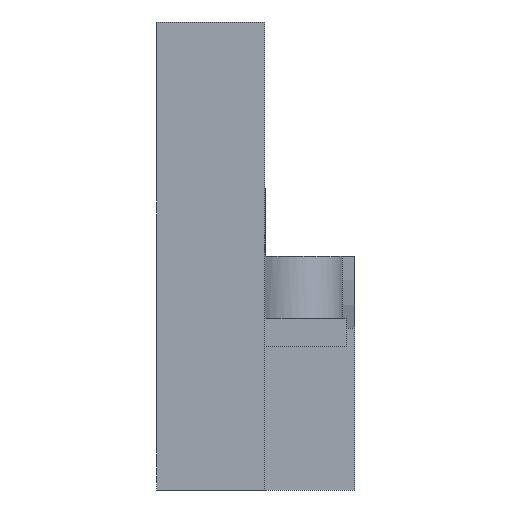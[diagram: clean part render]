
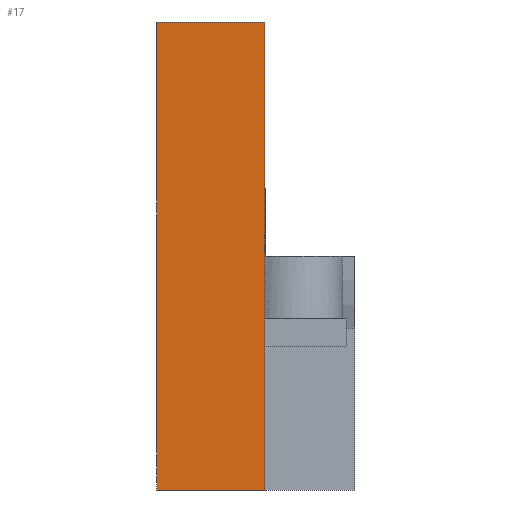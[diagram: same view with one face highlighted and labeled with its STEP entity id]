
A CAD part, left-side view. The second image highlights one B-rep face of the part: STEP entity #17.
In plain terms, the highlighted planar face has unit normal (-1, 0, 0).
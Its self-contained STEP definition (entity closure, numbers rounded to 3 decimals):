
#17 = ADVANCED_FACE('',(#18),#32,.F.);
#18 = FACE_BOUND('',#19,.F.);
#19 = EDGE_LOOP('',(#20,#55,#83,#111));
#20 = ORIENTED_EDGE('',*,*,#21,.F.);
#21 = EDGE_CURVE('',#22,#24,#26,.T.);
#22 = VERTEX_POINT('',#23);
#23 = CARTESIAN_POINT('',(-6.,-64.,30.));
#24 = VERTEX_POINT('',#25);
#25 = CARTESIAN_POINT('',(-6.,-64.,56.));
#26 = SURFACE_CURVE('',#27,(#31,#43),.PCURVE_S1.);
#27 = LINE('',#28,#29);
#28 = CARTESIAN_POINT('',(-6.,-64.,30.));
#29 = VECTOR('',#30,1.);
#30 = DIRECTION('',(0.,0.,1.));
#31 = PCURVE('',#32,#37);
#32 = PLANE('',#33);
#33 = AXIS2_PLACEMENT_3D('',#34,#35,#36);
#34 = CARTESIAN_POINT('',(-6.,-64.,30.));
#35 = DIRECTION('',(1.,0.,0.));
#36 = DIRECTION('',(0.,0.,1.));
#37 = DEFINITIONAL_REPRESENTATION('',(#38),#42);
#38 = LINE('',#39,#40);
#39 = CARTESIAN_POINT('',(0.,0.));
#40 = VECTOR('',#41,1.);
#41 = DIRECTION('',(1.,0.));
#42 = ( GEOMETRIC_REPRESENTATION_CONTEXT(2) 
PARAMETRIC_REPRESENTATION_CONTEXT() REPRESENTATION_CONTEXT('2D SPACE',''
  ) );
#43 = PCURVE('',#44,#49);
#44 = PLANE('',#45);
#45 = AXIS2_PLACEMENT_3D('',#46,#47,#48);
#46 = CARTESIAN_POINT('',(-6.,-64.,30.));
#47 = DIRECTION('',(0.,1.,0.));
#48 = DIRECTION('',(0.,0.,1.));
#49 = DEFINITIONAL_REPRESENTATION('',(#50),#54);
#50 = LINE('',#51,#52);
#51 = CARTESIAN_POINT('',(0.,0.));
#52 = VECTOR('',#53,1.);
#53 = DIRECTION('',(1.,0.));
#54 = ( GEOMETRIC_REPRESENTATION_CONTEXT(2) 
PARAMETRIC_REPRESENTATION_CONTEXT() REPRESENTATION_CONTEXT('2D SPACE',''
  ) );
#55 = ORIENTED_EDGE('',*,*,#56,.T.);
#56 = EDGE_CURVE('',#22,#57,#59,.T.);
#57 = VERTEX_POINT('',#58);
#58 = CARTESIAN_POINT('',(-6.,-58.,30.));
#59 = SURFACE_CURVE('',#60,(#64,#71),.PCURVE_S1.);
#60 = LINE('',#61,#62);
#61 = CARTESIAN_POINT('',(-6.,-64.,30.));
#62 = VECTOR('',#63,1.);
#63 = DIRECTION('',(0.,1.,0.));
#64 = PCURVE('',#32,#65);
#65 = DEFINITIONAL_REPRESENTATION('',(#66),#70);
#66 = LINE('',#67,#68);
#67 = CARTESIAN_POINT('',(0.,0.));
#68 = VECTOR('',#69,1.);
#69 = DIRECTION('',(0.,-1.));
#70 = ( GEOMETRIC_REPRESENTATION_CONTEXT(2) 
PARAMETRIC_REPRESENTATION_CONTEXT() REPRESENTATION_CONTEXT('2D SPACE',''
  ) );
#71 = PCURVE('',#72,#77);
#72 = PLANE('',#73);
#73 = AXIS2_PLACEMENT_3D('',#74,#75,#76);
#74 = CARTESIAN_POINT('',(-6.,-64.,30.));
#75 = DIRECTION('',(0.,0.,1.));
#76 = DIRECTION('',(1.,0.,0.));
#77 = DEFINITIONAL_REPRESENTATION('',(#78),#82);
#78 = LINE('',#79,#80);
#79 = CARTESIAN_POINT('',(0.,0.));
#80 = VECTOR('',#81,1.);
#81 = DIRECTION('',(0.,1.));
#82 = ( GEOMETRIC_REPRESENTATION_CONTEXT(2) 
PARAMETRIC_REPRESENTATION_CONTEXT() REPRESENTATION_CONTEXT('2D SPACE',''
  ) );
#83 = ORIENTED_EDGE('',*,*,#84,.T.);
#84 = EDGE_CURVE('',#57,#85,#87,.T.);
#85 = VERTEX_POINT('',#86);
#86 = CARTESIAN_POINT('',(-6.,-58.,56.));
#87 = SURFACE_CURVE('',#88,(#92,#99),.PCURVE_S1.);
#88 = LINE('',#89,#90);
#89 = CARTESIAN_POINT('',(-6.,-58.,30.));
#90 = VECTOR('',#91,1.);
#91 = DIRECTION('',(0.,0.,1.));
#92 = PCURVE('',#32,#93);
#93 = DEFINITIONAL_REPRESENTATION('',(#94),#98);
#94 = LINE('',#95,#96);
#95 = CARTESIAN_POINT('',(0.,-6.));
#96 = VECTOR('',#97,1.);
#97 = DIRECTION('',(1.,0.));
#98 = ( GEOMETRIC_REPRESENTATION_CONTEXT(2) 
PARAMETRIC_REPRESENTATION_CONTEXT() REPRESENTATION_CONTEXT('2D SPACE',''
  ) );
#99 = PCURVE('',#100,#105);
#100 = PLANE('',#101);
#101 = AXIS2_PLACEMENT_3D('',#102,#103,#104);
#102 = CARTESIAN_POINT('',(-6.,-58.,30.));
#103 = DIRECTION('',(0.,1.,0.));
#104 = DIRECTION('',(0.,0.,1.));
#105 = DEFINITIONAL_REPRESENTATION('',(#106),#110);
#106 = LINE('',#107,#108);
#107 = CARTESIAN_POINT('',(0.,0.));
#108 = VECTOR('',#109,1.);
#109 = DIRECTION('',(1.,0.));
#110 = ( GEOMETRIC_REPRESENTATION_CONTEXT(2) 
PARAMETRIC_REPRESENTATION_CONTEXT() REPRESENTATION_CONTEXT('2D SPACE',''
  ) );
#111 = ORIENTED_EDGE('',*,*,#112,.F.);
#112 = EDGE_CURVE('',#24,#85,#113,.T.);
#113 = SURFACE_CURVE('',#114,(#118,#125),.PCURVE_S1.);
#114 = LINE('',#115,#116);
#115 = CARTESIAN_POINT('',(-6.,-64.,56.));
#116 = VECTOR('',#117,1.);
#117 = DIRECTION('',(0.,1.,0.));
#118 = PCURVE('',#32,#119);
#119 = DEFINITIONAL_REPRESENTATION('',(#120),#124);
#120 = LINE('',#121,#122);
#121 = CARTESIAN_POINT('',(26.,0.));
#122 = VECTOR('',#123,1.);
#123 = DIRECTION('',(0.,-1.));
#124 = ( GEOMETRIC_REPRESENTATION_CONTEXT(2) 
PARAMETRIC_REPRESENTATION_CONTEXT() REPRESENTATION_CONTEXT('2D SPACE',''
  ) );
#125 = PCURVE('',#126,#131);
#126 = PLANE('',#127);
#127 = AXIS2_PLACEMENT_3D('',#128,#129,#130);
#128 = CARTESIAN_POINT('',(-6.,-64.,56.));
#129 = DIRECTION('',(0.,0.,1.));
#130 = DIRECTION('',(1.,0.,0.));
#131 = DEFINITIONAL_REPRESENTATION('',(#132),#136);
#132 = LINE('',#133,#134);
#133 = CARTESIAN_POINT('',(0.,0.));
#134 = VECTOR('',#135,1.);
#135 = DIRECTION('',(0.,1.));
#136 = ( GEOMETRIC_REPRESENTATION_CONTEXT(2) 
PARAMETRIC_REPRESENTATION_CONTEXT() REPRESENTATION_CONTEXT('2D SPACE',''
  ) );
